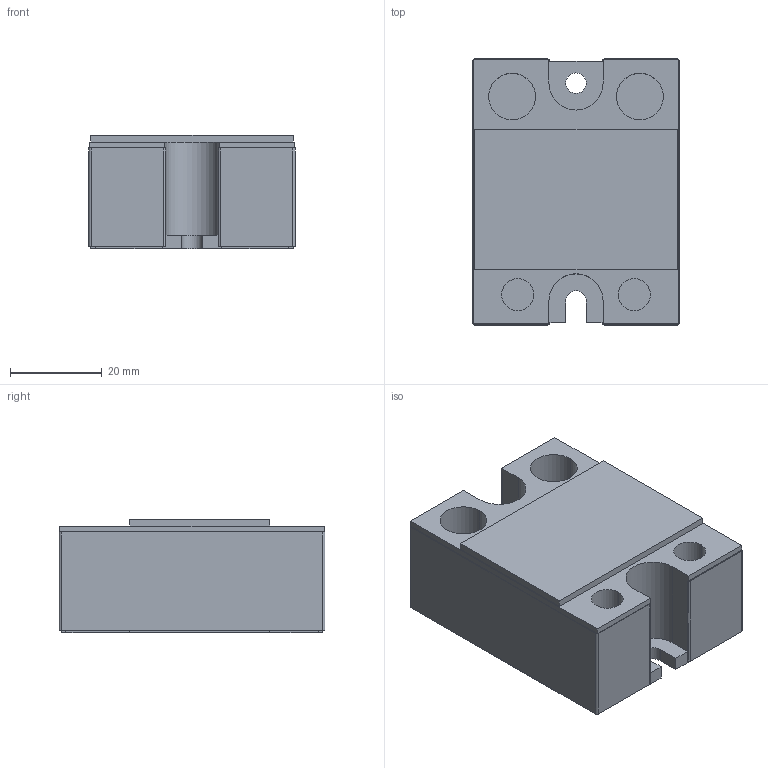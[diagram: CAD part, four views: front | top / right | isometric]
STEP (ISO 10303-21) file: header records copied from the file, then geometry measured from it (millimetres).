
FILE_DESCRIPTION (( 'STEP AP214' ), '1' );
FILE_NAME ('SP1PXS.STEP', '2024-04-24T08:34:58', ( '' ), ( '' ), 'SwSTEP 2.0', 'SolidWorks 2022', '' );
FILE_SCHEMA (( 'AUTOMOTIVE_DESIGN' ));
Length unit declared in the file: millimetre
Products named in the file (1): SP1PXS
Bounding box: 45 x 58 x 24.8 mm (x, y, z)
Volume: 52902.3 mm3; surface area: 13206.9 mm2
Topology: 1 solids, 1 shells, 105 faces, 294 edges, 196 vertices
Faces by surface type: plane 80, cylinder 21, bspline 4
Entity records: 3428 total; most frequent: CARTESIAN_POINT 664, ORIENTED_EDGE 588, DIRECTION 532, EDGE_CURVE 294, VECTOR 244, LINE 244, VERTEX_POINT 196, AXIS2_PLACEMENT_3D 144
